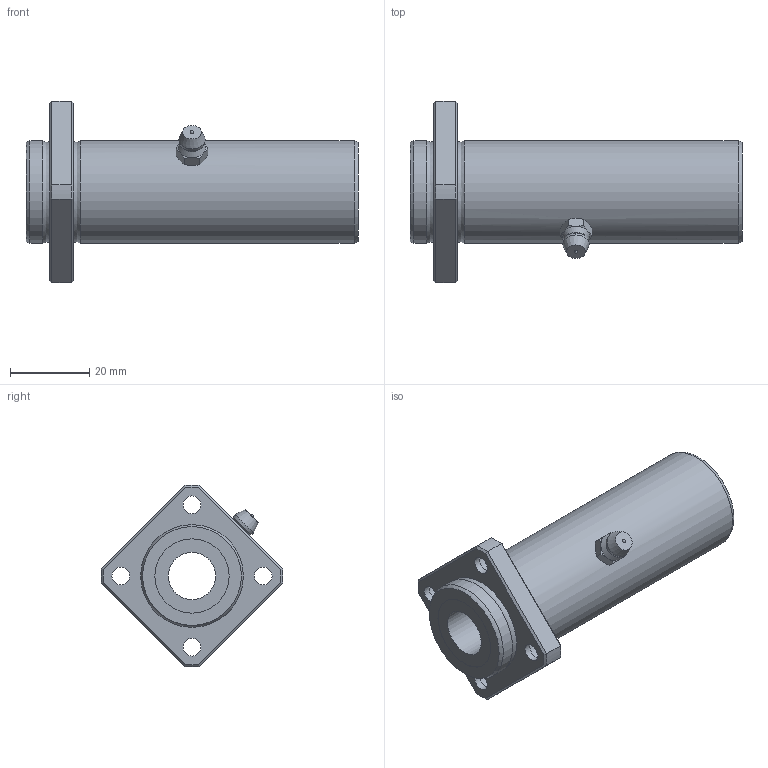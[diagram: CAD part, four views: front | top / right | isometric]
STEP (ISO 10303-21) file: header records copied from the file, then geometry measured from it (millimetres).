
FILE_DESCRIPTION((''),'2;1');
FILE_NAME('D:\製品 (図面)\カタログ用3D\リニアベアリング関連\STEP形式\LFLKB\LFLKB12.stp','2010-06-04T09:10:51',('Tsuchiya'),(''),'Autodesk Inventor 10','Autodesk Inventor 10','');
FILE_SCHEMA(('AUTOMOTIVE_DESIGN { 1 0 10303 214 1 1 1 1 }'));
Length unit declared in the file: millimetre
Products named in the file (1): LFLKB12
Bounding box: 84 x 45.98 x 45.98 mm (x, y, z)
Volume: 38307.1 mm3; surface area: 13043.7 mm2
Topology: 1 solids, 1 shells, 80 faces, 166 edges, 98 vertices
Faces by surface type: plane 28, cone 21, bspline 16, cylinder 11, sphere 2, torus 2
Full cylindrical faces by diameter (mm): 12 x1, 18.8 x2, 26 x2
Entity records: 2413 total; most frequent: CARTESIAN_POINT 879, DIRECTION 300, ORIENTED_EDGE 288, EDGE_CURVE 144, AXIS2_PLACEMENT_3D 133, EDGE_LOOP 122, VERTEX_POINT 96, FACE_OUTER_BOUND 80
